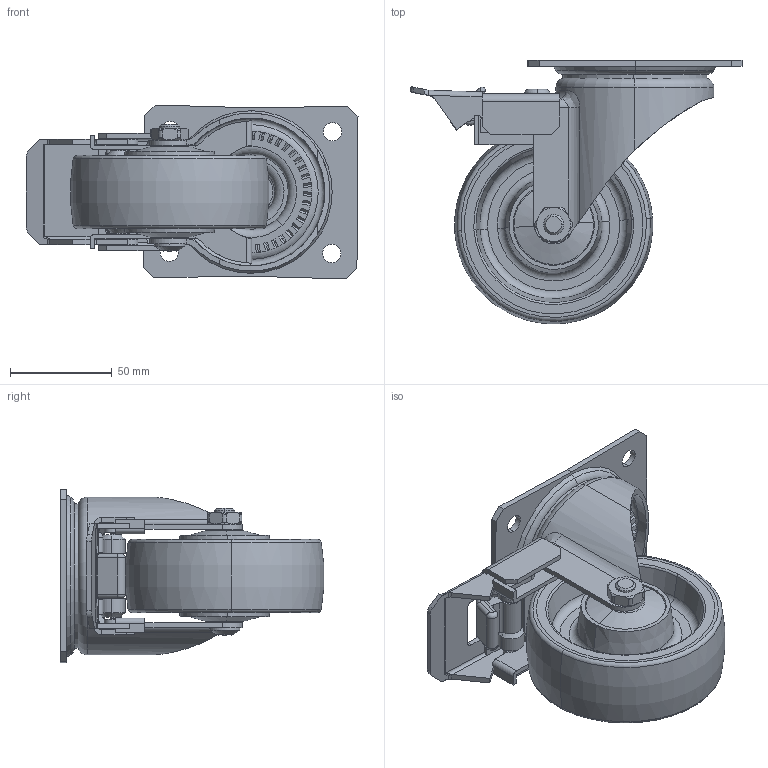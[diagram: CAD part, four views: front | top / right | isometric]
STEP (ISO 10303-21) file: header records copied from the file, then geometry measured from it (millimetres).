
FILE_DESCRIPTION (( 'STEP AP203' ), '1' );
FILE_NAME ('400391_STEP.STEP', '2011-08-29T09:24:58', ( '' ), ( '' ), 'SwSTEP 2.0', 'SolidWorks 2011', '' );
FILE_SCHEMA (( 'CONFIG_CONTROL_DESIGN' ));
Length unit declared in the file: millimetre
Products named in the file (1): 400391_STEP
Bounding box: 163.52 x 129.86 x 85.66 mm (x, y, z)
Surface area: 109727.5 mm2 (no closed solid volume)
Topology: 0 solids, 24 shells, 566 faces, 1886 edges, 1290 vertices
Faces by surface type: plane 283, cylinder 157, torus 65, cone 49, bspline 8, sphere 4
Entity records: 21744 total; most frequent: CARTESIAN_POINT 5338, DIRECTION 3492, ORIENTED_EDGE 3185, EDGE_CURVE 1884, VERTEX_POINT 1290, AXIS2_PLACEMENT_3D 1244, VECTOR 1004, LINE 1004
